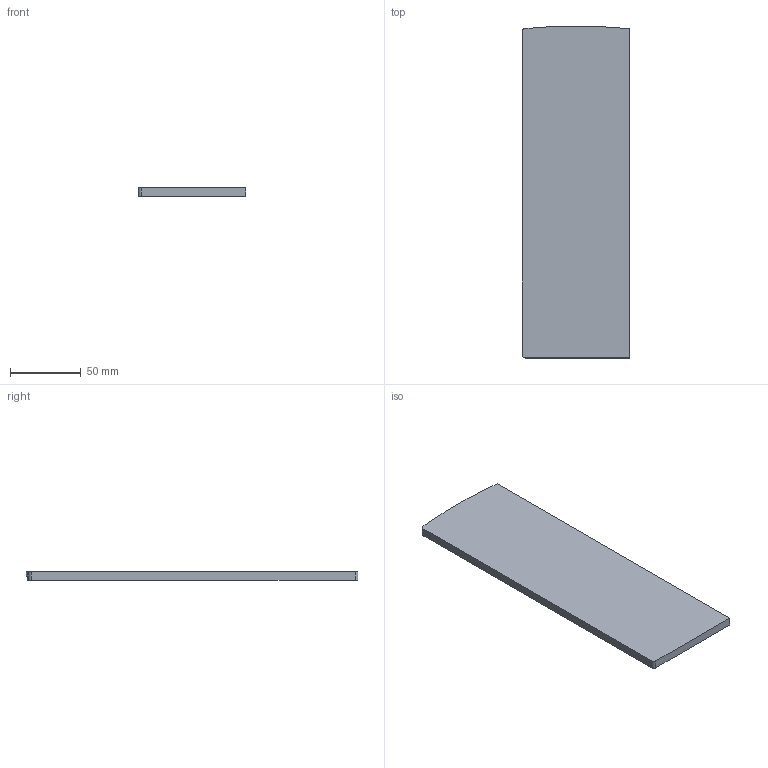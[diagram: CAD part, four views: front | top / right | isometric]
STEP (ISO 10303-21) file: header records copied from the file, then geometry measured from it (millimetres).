
FILE_DESCRIPTION(/* description */ ('TURBOFLEX TL-3621 endcap Right aluminum mill finish'),/* implementation_level */ '2;1');
FILE_NAME(/* name */ '1036214501x.stp',/* time_stamp */ '2025-11-13T10:32:58+01:00',/* author */ ('nethmini'),/* organization */ (''),/* preprocessor_version */ 'ST-DEVELOPER v19.2',/* originating_system */ 'Autodesk Inventor 2024',/* authorisation */ '');
FILE_SCHEMA (('AUTOMOTIVE_DESIGN { 1 0 10303 214 3 1 1 }'));
Length unit declared in the file: millimetre
Products named in the file (1): 10362145010
Bounding box: 76 x 234.87 x 6 mm (x, y, z)
Volume: 36946.4 mm3; surface area: 39541.7 mm2
Topology: 1 solids, 1 shells, 42 faces, 114 edges, 76 vertices
Faces by surface type: plane 29, bspline 7, cylinder 6
Entity records: 1417 total; most frequent: CARTESIAN_POINT 345, ORIENTED_EDGE 228, DIRECTION 184, EDGE_CURVE 114, LINE 88, VECTOR 88, VERTEX_POINT 76, AXIS2_PLACEMENT_3D 48
